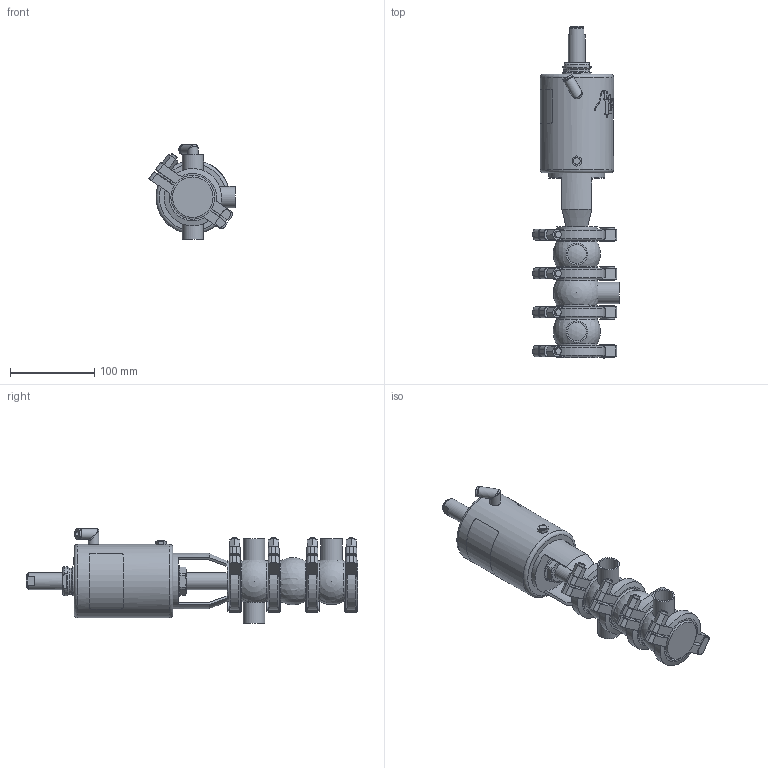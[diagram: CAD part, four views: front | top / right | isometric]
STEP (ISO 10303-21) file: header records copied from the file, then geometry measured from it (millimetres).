
FILE_DESCRIPTION (( 'STEP AP214' ), '1' );
FILE_NAME ('INNOVA L P W OD 1 T1 AS NC_10.241.16.0016.STEP', '2024-08-07T07:41:21', ( '' ), ( '' ), 'SwSTEP 2.0', 'SolidWorks 2023', '' );
FILE_SCHEMA (( 'AUTOMOTIVE_DESIGN' ));
Length unit declared in the file: millimetre
Products named in the file (7): 10.240.15.0001_DN 025; 10.240.15.0006_OD 1"; INNOVA L P W OD 1 T1 AS NC_10.241.16.0016; 10.240.15.0010_DN 025; 10.240.15.0014_T1 AS P180; 10.240.15.0007_OD 1"; 10.241.15.0001_DIN 025
Assembly tree (10 placements, depth 2):
  INNOVA L P W OD 1 T1 AS NC_10.241.16.0016
    10.240.15.0007_OD 1"
    10.240.15.0006_OD 1"  x2
    10.240.15.0010_DN 025
    10.240.15.0014_T1 AS P180
    10.240.15.0001_DN 025  x4
    10.241.15.0001_DIN 025
Bounding box: 101.94 x 393.09 x 112.25 mm (x, y, z)
Volume: 1238105.5 mm3; surface area: 196364.3 mm2
Topology: 11 solids, 11 shells, 541 faces, 1418 edges, 922 vertices
Faces by surface type: plane 261, cylinder 139, bspline 80, cone 50, sphere 7, torus 4
Full cylindrical faces by diameter (mm): 6.15 x1, 8 x9, 8.5 x1, 10.5 x1, 12.5 x3, 16 x1, 20 x2, 22.1 x4, 25.4 x4, 31 x1, 34.5 x2, 36.5 x1, 48 x8, 59.7 x8, 66 x1, 87 x1
Entity records: 19811 total; most frequent: CARTESIAN_POINT 10251, ORIENTED_EDGE 1652, DIRECTION 1305, EDGE_CURVE 826, VERTEX_POINT 571, AXIS2_PLACEMENT_3D 504, EDGE_LOOP 435, FACE_OUTER_BOUND 392
